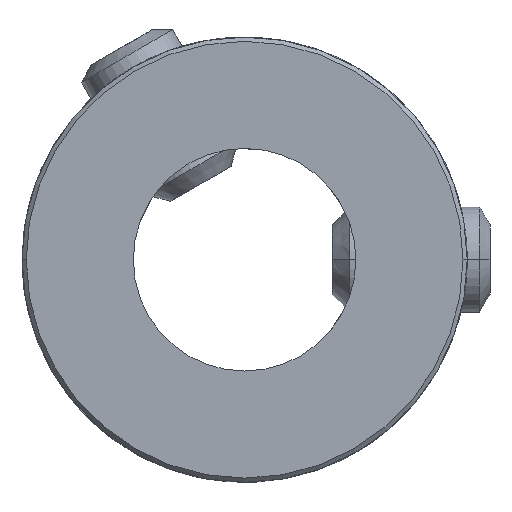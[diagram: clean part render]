
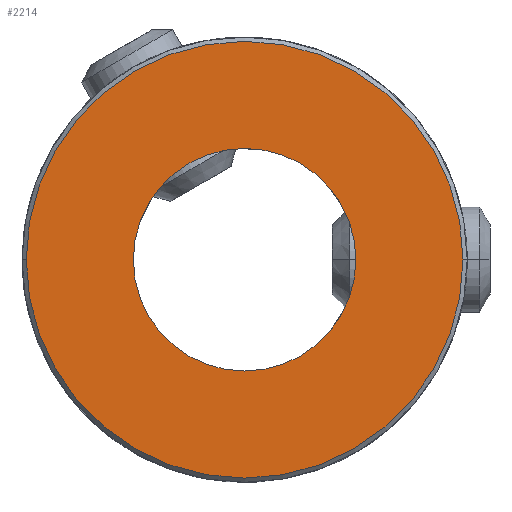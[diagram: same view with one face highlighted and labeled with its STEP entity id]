
A CAD part, front view. The second image highlights one B-rep face of the part: STEP entity #2214.
In plain terms, the highlighted planar face has unit normal (0, -1, 0).
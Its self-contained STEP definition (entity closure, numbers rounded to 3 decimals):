
#1=CARTESIAN_POINT('',(0.,-11.45,0.));
#2=DIRECTION('',(0.,-1.,0.));
#3=DIRECTION('',(-1.,0.,0.));
#4=AXIS2_PLACEMENT_3D('',#1,#2,#3);
#6=CARTESIAN_POINT('',(0.,-11.45,
0.));
#7=DIRECTION('',(0.,-1.,0.));
#8=DIRECTION('',(1.,0.,0.));
#9=AXIS2_PLACEMENT_3D('',#6,#7,#8);
#11=CARTESIAN_POINT('',(0.,-11.45,0.));
#12=DIRECTION('',(0.,1.,0.));
#13=DIRECTION('',(1.,0.,0.));
#14=AXIS2_PLACEMENT_3D('',#11,#12,#13);
#16=CARTESIAN_POINT('',(0.,-11.45,0.));
#17=DIRECTION('',(0.,1.,0.));
#18=DIRECTION('',(-1.,0.,0.));
#19=AXIS2_PLACEMENT_3D('',#16,#17,#18);
#1999=CARTESIAN_POINT('',(3.175,-11.45,0.));
#2000=CARTESIAN_POINT('',(-3.175,-11.45,0.));
#2001=VERTEX_POINT('',#1999);
#2002=VERTEX_POINT('',#2000);
#2027=CARTESIAN_POINT('',(-6.23,-11.45,0.));
#2028=CARTESIAN_POINT('',(6.23,-11.45,0.));
#2029=VERTEX_POINT('',#2027);
#2030=VERTEX_POINT('',#2028);
#2197=CARTESIAN_POINT('',(0.,-11.45,0.));
#2198=DIRECTION('',(0.,1.,0.));
#2199=DIRECTION('',(1.,0.,0.));
#2200=AXIS2_PLACEMENT_3D('',#2197,#2198,#2199);
#2201=PLANE('',#2200);
#2203=ORIENTED_EDGE('',*,*,#2202,.F.);
#2205=ORIENTED_EDGE('',*,*,#2204,.F.);
#2206=EDGE_LOOP('',(#2203,#2205));
#2207=FACE_OUTER_BOUND('',#2206,.F.);
#2209=ORIENTED_EDGE('',*,*,#2208,.F.);
#2211=ORIENTED_EDGE('',*,*,#2210,.F.);
#2212=EDGE_LOOP('',(#2209,#2211));
#2213=FACE_BOUND('',#2212,.F.);
#2214=ADVANCED_FACE('',(#2207,#2213),#2201,.F.);
#5=CIRCLE('',#4,6.23);
#10=CIRCLE('',#9,6.23);
#15=CIRCLE('',#14,3.175);
#20=CIRCLE('',#19,3.175);
#2202=EDGE_CURVE('',#2029,#2030,#5,.T.);
#2204=EDGE_CURVE('',#2030,#2029,#10,.T.);
#2208=EDGE_CURVE('',#2001,#2002,#15,.T.);
#2210=EDGE_CURVE('',#2002,#2001,#20,.T.);
